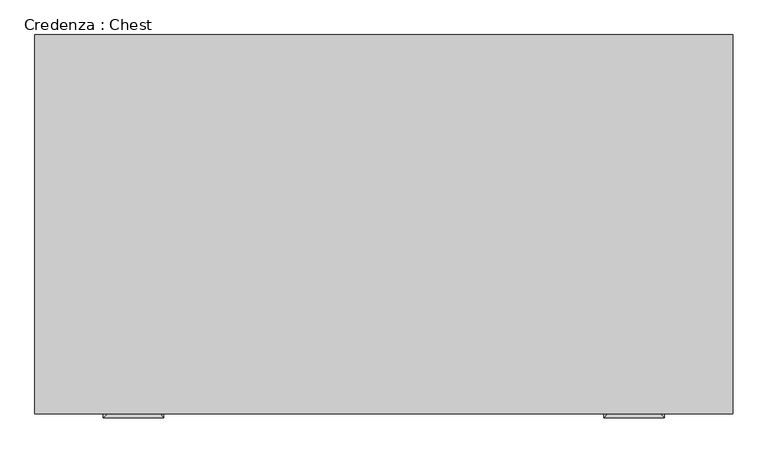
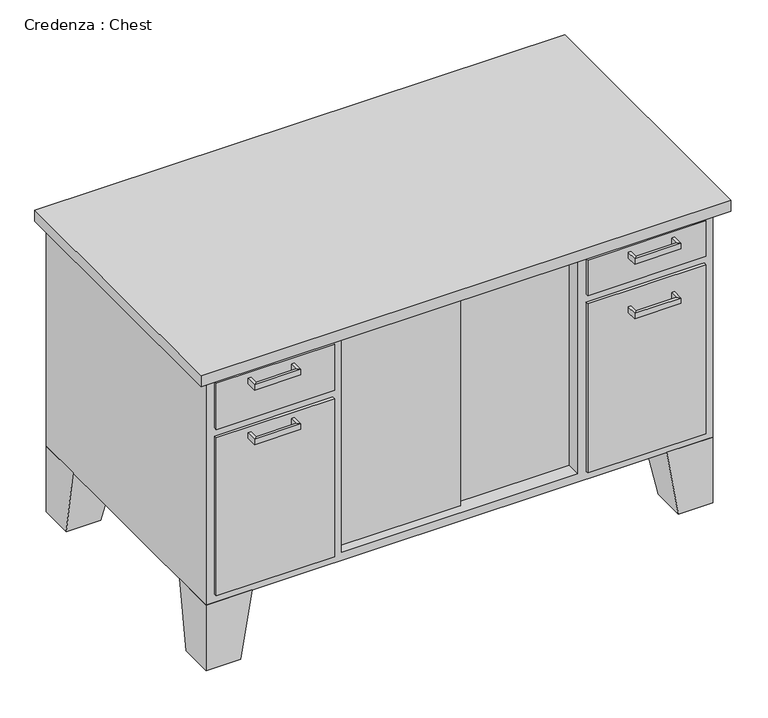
"""IFC4 building model written with IfcOpenShell, lengths in millimetres: furniture geometry, Credenza : Chest."""

from ifc_helpers import new_model, si_unit, frame, origin, place, context, project, spatial, polyline, outline, extrude, faceted_brep, source, transform, mapped, element, save


def credenza_chest_ae103346(model_context):
    return source(origin(), model_context, "Body", "SolidModel", [
        extrude(outline(polyline([(353.9023176, -267.2714583), (46.8442623, -267.2714583), (46.8442623, -254.5714583), (353.9023176, -254.5714583), (353.9023176, -267.2714583)])), frame((0.0, 0.0, 171.45), z_axis=(0.0, 0.0, 1.0), x_axis=(1.0, 0.0, 0.0)), (0.0, 0.0, 1.0), 495.3),
        extrude(outline(polyline([(73.6254475, -279.9714583), (-200.8057377, -279.9714583), (-200.8057377, -267.2714583), (73.6254475, -267.2714583), (73.6254475, -279.9714583)])), frame((0.0, 0.0, 171.45), z_axis=(0.0, 0.0, 1.0), x_axis=(1.0, 0.0, 0.0)), (0.0, 0.0, 1.0), 495.3),
        faceted_brep([(516.7442623, 309.3803279, 152.4), (516.7442623, 207.7803279, 152.4), (618.3442623, 207.7803279, 152.4), (618.3442623, 309.3803279, 152.4), (542.1442623, 309.3803279, 0.0), (618.3442623, 309.3803279, 0.0), (618.3442623, 233.1803279, 0.0), (542.1442623, 233.1803279, 0.0)], [[[0, 1, 2, 3]], [[4, 5, 6, 7]], [[4, 7, 1, 0]], [[7, 6, 2, 1]], [[6, 5, 3, 2]], [[5, 4, 0, 3]]]),
        extrude(outline(polyline([(599.2942623, -306.5696721), (338.9442623, -306.5696721), (338.9442623, -300.2196721), (599.2942623, -300.2196721), (599.2942623, -306.5696721)])), frame((0.0, 0.0, 584.2), z_axis=(0.0, 0.0, 1.0), x_axis=(1.0, 0.0, 0.0)), (0.0, 0.0, 1.0), 82.55),
        extrude(outline(polyline([(599.2942623, -306.5696721), (338.9442623, -306.5696721), (338.9442623, -300.2196721), (599.2942623, -300.2196721), (599.2942623, -306.5696721)])), frame((0.0, 0.0, 171.45), z_axis=(0.0, 0.0, 1.0), x_axis=(1.0, 0.0, 0.0)), (0.0, 0.0, 1.0), 393.7),
        extrude(outline(polyline([(-219.8557377, -306.5696721), (-480.2057377, -306.5696721), (-480.2057377, -300.2196721), (-219.8557377, -300.2196721), (-219.8557377, -306.5696721)])), frame((0.0, 0.0, 558.8), z_axis=(0.0, 0.0, 1.0), x_axis=(1.0, 0.0, 0.0)), (0.0, 0.0, 1.0), 107.95),
        extrude(outline(polyline([(-219.8557377, -306.5696721), (-480.2057377, -306.5696721), (-480.2057377, -300.2196721), (-219.8557377, -300.2196721), (-219.8557377, -306.5696721)])), frame((0.0, 0.0, 171.45), z_axis=(0.0, 0.0, 1.0), x_axis=(1.0, 0.0, 0.0)), (0.0, 0.0, 1.0), 368.3),
        faceted_brep([(-397.6557377, -300.2196721, 152.4), (-397.6557377, -198.6196721, 152.4), (-499.2557377, -198.6196721, 152.4), (-499.2557377, -300.2196721, 152.4), (-423.0557377, -300.2196721, 0.0), (-499.2557377, -300.2196721, 0.0), (-499.2557377, -224.0196721, 0.0), (-423.0557377, -224.0196721, 0.0)], [[[0, 1, 2, 3]], [[4, 5, 6, 7]], [[4, 7, 1, 0]], [[7, 6, 2, 1]], [[6, 5, 3, 2]], [[5, 4, 0, 3]]]),
        faceted_brep([(-397.6557377, 309.3803279, 152.4), (-499.2557377, 309.3803279, 152.4), (-499.2557377, 207.7803279, 152.4), (-397.6557377, 207.7803279, 152.4), (-423.0557377, 309.3803279, 0.0), (-423.0557377, 233.1803279, 0.0), (-499.2557377, 233.1803279, 0.0), (-499.2557377, 309.3803279, 0.0)], [[[0, 1, 2, 3]], [[4, 5, 6, 7]], [[4, 7, 1, 0]], [[7, 6, 2, 1]], [[6, 5, 3, 2]], [[5, 4, 0, 3]]]),
        faceted_brep([(516.7442623, -300.2196721, 152.4), (618.3442623, -300.2196721, 152.4), (618.3442623, -198.6196721, 152.4), (516.7442623, -198.6196721, 152.4), (542.1442623, -300.2196721, 0.0), (542.1442623, -224.0196721, 0.0), (618.3442623, -224.0196721, 0.0), (618.3442623, -300.2196721, 0.0)], [[[0, 1, 2, 3]], [[4, 5, 6, 7]], [[4, 7, 1, 0]], [[7, 6, 2, 1]], [[6, 5, 3, 2]], [[5, 4, 0, 3]]]),
        faceted_brep([(618.3442623, 309.3803279, 685.8), (-499.2557377, 309.3803279, 685.8), (-499.2557377, -300.2196721, 685.8), (618.3442623, -300.2196721, 685.8), (618.3442623, 309.3803279, 152.4), (618.3442623, -300.2196721, 152.4), (-499.2557377, -300.2196721, 152.4), (-499.2557377, 309.3803279, 152.4), (-200.8057377, -300.2196721, 666.75), (319.8942623, -300.2196721, 666.75), (319.8942623, -300.2196721, 171.45), (-200.8057377, -300.2196721, 171.45), (-200.8057377, 290.3303279, 666.75), (319.8942623, 290.3303279, 666.75), (-200.8057377, 290.3303279, 171.45), (319.8942623, 290.3303279, 171.45)], [[[0, 1, 2, 3]], [[4, 5, 6, 7]], [[1, 0, 4, 7]], [[2, 1, 7, 6]], [[3, 2, 6, 5], [8, 9, 10, 11]], [[0, 3, 5, 4]], [[12, 13, 9, 8]], [[14, 12, 8, 11]], [[15, 14, 11, 10]], [[13, 15, 10, 9]], [[13, 12, 14, 15]]]),
        extrude(outline(polyline([(643.7442623, 309.3803279), (643.7442623, -325.6196721), (-524.6557377, -325.6196721), (-524.6557377, 309.3803279), (643.7442623, 309.3803279)])), frame((0.0, 0.0, 685.8), z_axis=(0.0, 0.0, 1.0), x_axis=(1.0, 0.0, 0.0)), (0.0, 0.0, 1.0), 25.4),
        faceted_brep([(-404.0057377, -306.5696721, 527.05), (-404.0057377, -306.5696721, 514.35), (-410.3557377, -306.5696721, 514.35), (-410.3557377, -306.5696721, 527.05), (-404.0057377, -325.6196721, 527.05), (-404.0057377, -325.6196721, 514.35), (-410.3557377, -331.9696721, 514.35), (-410.3557377, -331.9696721, 527.05), (-315.1057377, -325.6196721, 527.05), (-315.1057377, -325.6196721, 514.35), (-308.7557377, -331.9696721, 514.35), (-308.7557377, -331.9696721, 527.05), (-315.1057377, -306.5696721, 527.05), (-308.7557377, -306.5696721, 527.05), (-308.7557377, -306.5696721, 514.35), (-315.1057377, -306.5696721, 514.35)], [[[0, 1, 2, 3]], [[1, 0, 4, 5]], [[2, 1, 5, 6]], [[3, 2, 6, 7]], [[0, 3, 7, 4]], [[5, 4, 8, 9]], [[6, 5, 9, 10]], [[7, 6, 10, 11]], [[4, 7, 11, 8]], [[12, 13, 14, 15]], [[9, 8, 12, 15]], [[10, 9, 15, 14]], [[11, 10, 14, 13]], [[8, 11, 13, 12]]]),
        faceted_brep([(-404.0057377, -306.5696721, 654.05), (-404.0057377, -306.5696721, 641.35), (-410.3557377, -306.5696721, 641.35), (-410.3557377, -306.5696721, 654.05), (-404.0057377, -325.6196721, 654.05), (-404.0057377, -325.6196721, 641.35), (-410.3557377, -331.9696721, 641.35), (-410.3557377, -331.9696721, 654.05), (-315.1057377, -325.6196721, 654.05), (-315.1057377, -325.6196721, 641.35), (-308.7557377, -331.9696721, 641.35), (-308.7557377, -331.9696721, 654.05), (-315.1057377, -306.5696721, 654.05), (-308.7557377, -306.5696721, 654.05), (-308.7557377, -306.5696721, 641.35), (-315.1057377, -306.5696721, 641.35)], [[[0, 1, 2, 3]], [[1, 0, 4, 5]], [[2, 1, 5, 6]], [[3, 2, 6, 7]], [[0, 3, 7, 4]], [[5, 4, 8, 9]], [[6, 5, 9, 10]], [[7, 6, 10, 11]], [[4, 7, 11, 8]], [[12, 13, 14, 15]], [[9, 8, 12, 15]], [[10, 9, 15, 14]], [[11, 10, 14, 13]], [[8, 11, 13, 12]]]),
        faceted_brep([(434.1942623, -306.5696721, 654.1373112), (434.1942623, -306.5696721, 641.4373112), (427.8442623, -306.5696721, 641.4373112), (427.8442623, -306.5696721, 654.1373112), (434.1942623, -325.6196721, 654.1373112), (434.1942623, -325.6196721, 641.4373112), (427.8442623, -331.9696721, 641.4373112), (427.8442623, -331.9696721, 654.1373112), (523.0942623, -325.6196721, 654.1373112), (523.0942623, -325.6196721, 641.4373112), (529.4442623, -331.9696721, 641.4373112), (529.4442623, -331.9696721, 654.1373112), (523.0942623, -306.5696721, 654.1373112), (529.4442623, -306.5696721, 654.1373112), (529.4442623, -306.5696721, 641.4373112), (523.0942623, -306.5696721, 641.4373112)], [[[0, 1, 2, 3]], [[1, 0, 4, 5]], [[2, 1, 5, 6]], [[3, 2, 6, 7]], [[0, 3, 7, 4]], [[5, 4, 8, 9]], [[6, 5, 9, 10]], [[7, 6, 10, 11]], [[4, 7, 11, 8]], [[12, 13, 14, 15]], [[9, 8, 12, 15]], [[10, 9, 15, 14]], [[11, 10, 14, 13]], [[8, 11, 13, 12]]]),
        faceted_brep([(434.1942623, -306.5696721, 527.05), (434.1942623, -306.5696721, 514.35), (427.8442623, -306.5696721, 514.35), (427.8442623, -306.5696721, 527.05), (434.1942623, -325.6196721, 527.05), (434.1942623, -325.6196721, 514.35), (427.8442623, -331.9696721, 514.35), (427.8442623, -331.9696721, 527.05), (523.0942623, -325.6196721, 527.05), (523.0942623, -325.6196721, 514.35), (529.4442623, -331.9696721, 514.35), (529.4442623, -331.9696721, 527.05), (523.0942623, -306.5696721, 527.05), (529.4442623, -306.5696721, 527.05), (529.4442623, -306.5696721, 514.35), (523.0942623, -306.5696721, 514.35)], [[[0, 1, 2, 3]], [[1, 0, 4, 5]], [[2, 1, 5, 6]], [[3, 2, 6, 7]], [[0, 3, 7, 4]], [[5, 4, 8, 9]], [[6, 5, 9, 10]], [[7, 6, 10, 11]], [[4, 7, 11, 8]], [[12, 13, 14, 15]], [[9, 8, 12, 15]], [[10, 9, 15, 14]], [[11, 10, 14, 13]], [[8, 11, 13, 12]]]),
    ])


if __name__ == "__main__":
    model = new_model("IFC4")
    model_context = context("Model", 3, world=origin())
    ifc_project = project(units=[si_unit("LENGTHUNIT", "METRE", prefix="MILLI")], contexts=[model_context])
    site = spatial("IfcSite", under=ifc_project)
    building = spatial("IfcBuilding", under=site)
    placement = place(None, origin())
    credenza_chest_shape = credenza_chest_ae103346(model_context)
    element("IfcFurniture", 1, ObjectType="Credenza : Chest", at=placement, inside=building, context=model_context, shape_type="MappedRepresentation", body=[
        mapped(credenza_chest_shape, transform((0.0, 0.0, 0.0), x_axis=(1.0, 0.0, 0.0), y_axis=(0.0, 1.0, 0.0), z_axis=(0.0, 0.0, 1.0))),
    ])
    save(model, "model.ifc")
